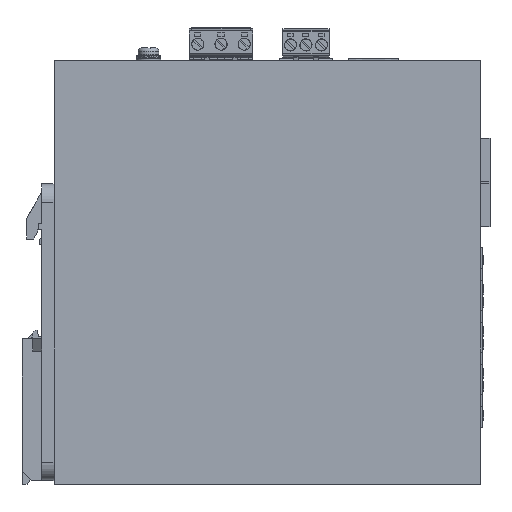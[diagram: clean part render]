
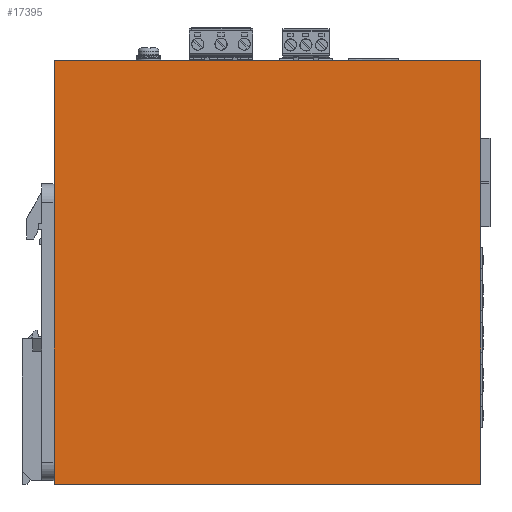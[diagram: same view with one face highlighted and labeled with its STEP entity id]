
A CAD part, left-side view. The second image highlights one B-rep face of the part: STEP entity #17395.
In plain terms, the highlighted planar face has unit normal (-1, 0, 0).
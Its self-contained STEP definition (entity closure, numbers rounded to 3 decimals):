
#2292=CARTESIAN_POINT('',(-0.,140.,139.));
#2293=VERTEX_POINT('',#2292);
#2302=CARTESIAN_POINT('',(0.,0.,139.));
#2303=VERTEX_POINT('',#2302);
#2304=CARTESIAN_POINT('',(0.,0.,139.));
#2305=DIRECTION('',(-0.,1.,0.));
#2306=VECTOR('',#2305,140.);
#2307=LINE('',#2304,#2306);
#2308=EDGE_CURVE('',#2303,#2293,#2307,.T.);
#3555=CARTESIAN_POINT('',(-0.,140.,0.));
#3556=VERTEX_POINT('',#3555);
#3563=CARTESIAN_POINT('',(-0.,140.,0.));
#3564=DIRECTION('',(-0.,-0.,1.));
#3565=VECTOR('',#3564,139.);
#3566=LINE('',#3563,#3565);
#3567=EDGE_CURVE('',#3556,#2293,#3566,.T.);
#5931=CARTESIAN_POINT('',(0.,0.,0.));
#5932=VERTEX_POINT('',#5931);
#5941=CARTESIAN_POINT('',(-0.,140.,0.));
#5942=DIRECTION('',(0.,-1.,-0.));
#5943=VECTOR('',#5942,140.);
#5944=LINE('',#5941,#5943);
#5945=EDGE_CURVE('',#3556,#5932,#5944,.T.);
#17379=CARTESIAN_POINT('',(0.,0.,0.));
#17380=DIRECTION('',(-1.,-0.,0.));
#17381=DIRECTION('',(-0.,1.,0.));
#17382=AXIS2_PLACEMENT_3D('',#17379,#17380,#17381);
#17383=PLANE('',#17382);
#17384=ORIENTED_EDGE('',*,*,#2308,.T.);
#17385=ORIENTED_EDGE('',*,*,#3567,.F.);
#17386=ORIENTED_EDGE('',*,*,#5945,.T.);
#17387=CARTESIAN_POINT('',(0.,0.,139.));
#17388=DIRECTION('',(-0.,-0.,-1.));
#17389=VECTOR('',#17388,139.);
#17390=LINE('',#17387,#17389);
#17391=EDGE_CURVE('',#2303,#5932,#17390,.T.);
#17392=ORIENTED_EDGE('',*,*,#17391,.F.);
#17393=EDGE_LOOP('',(#17384,#17385,#17386,#17392));
#17394=FACE_BOUND('',#17393,.T.);
#17395=ADVANCED_FACE('',(#17394),#17383,.T.);
